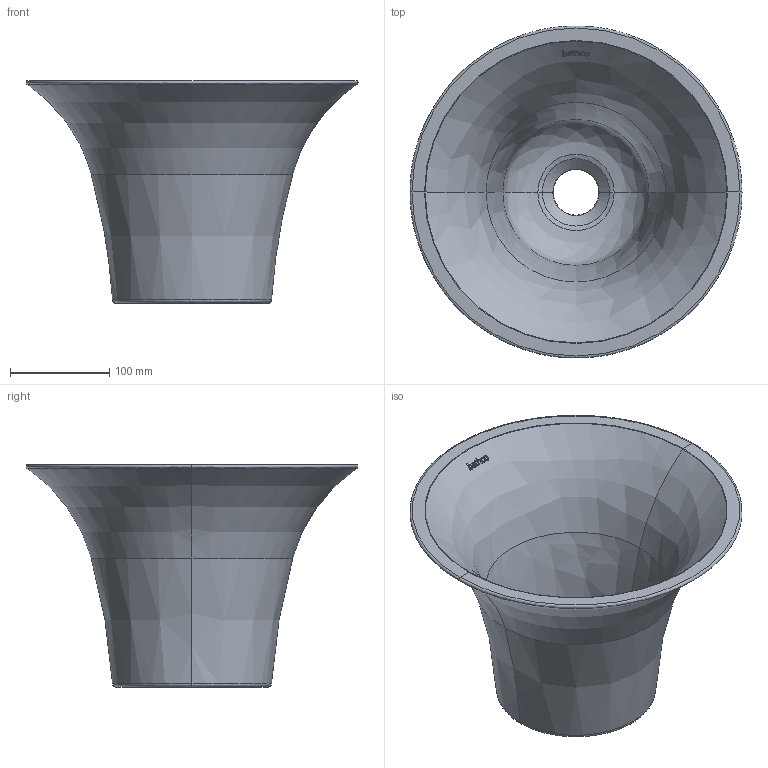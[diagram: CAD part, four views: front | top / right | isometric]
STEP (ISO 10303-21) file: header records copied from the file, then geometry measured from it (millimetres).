
FILE_DESCRIPTION(/* description */ (''),/* implementation_level */ '2;1');
FILE_NAME(/* name */ '8332_Sotres',/* time_stamp */ '2025-01-22T12:29:59+01:00',/* author */ (''),/* organization */ (''),/* preprocessor_version */ 'ST-DEVELOPER v19.2',/* originating_system */ 'Rhino 8.14',/* authorisation */ '');
FILE_SCHEMA (('CONFIG_CONTROL_DESIGN'));
Length unit declared in the file: millimetre
Products named in the file (1): Document
Bounding box: 335 x 334.99 x 225 mm (x, y, z)
Volume: 1985711.7 mm3; surface area: 359168.9 mm2
Topology: 8 solids, 8 shells, 117 faces, 263 edges, 160 vertices
Faces by surface type: bspline 77, plane 36, cylinder 4
Entity records: 5493 total; most frequent: CARTESIAN_POINT 3304, ORIENTED_EDGE 526, EDGE_CURVE 263, DIRECTION 244, VERTEX_POINT 160, AXIS2_PLACEMENT_3D 142, B_SPLINE_CURVE_WITH_KNOTS 132, EDGE_LOOP 123
